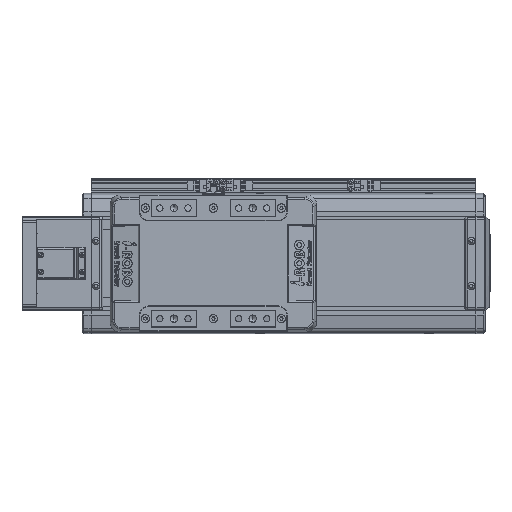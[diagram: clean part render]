
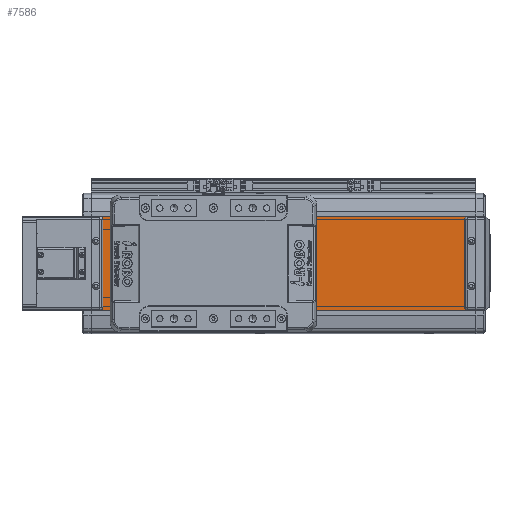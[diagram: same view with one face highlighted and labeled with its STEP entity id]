
A CAD part, top view. The second image highlights one B-rep face of the part: STEP entity #7586.
In plain terms, the highlighted planar face has unit normal (0, 0, 1).
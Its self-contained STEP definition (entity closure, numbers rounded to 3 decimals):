
#7586=ADVANCED_FACE('',(#16433),#16434,.F.);
#16433=FACE_OUTER_BOUND('',#27965,.T.);
#16434=PLANE('',#27966);
#27965=EDGE_LOOP('',(#49287,#49288,#49289,#49290));
#27966=AXIS2_PLACEMENT_3D('',#49291,#49292,#49293);
#49287=ORIENTED_EDGE('',*,*,#71429,.F.);
#49288=ORIENTED_EDGE('',*,*,#71430,.F.);
#49289=ORIENTED_EDGE('',*,*,#69775,.F.);
#49290=ORIENTED_EDGE('',*,*,#70265,.T.);
#49291=CARTESIAN_POINT('',(0.,0.,26.));
#49292=DIRECTION('',(0.,0.,-1.0));
#49293=DIRECTION('',(0.,1.0,0.));
#69775=EDGE_CURVE('',#85631,#85633,#85634,.T.);
#70265=EDGE_CURVE('',#85631,#86344,#86347,.T.);
#71429=EDGE_CURVE('',#87925,#86344,#87926,.T.);
#71430=EDGE_CURVE('',#85633,#87925,#87927,.T.);
#85631=VERTEX_POINT('',#106609);
#85633=VERTEX_POINT('',#106612);
#85634=LINE('',#106613,#106614);
#86344=VERTEX_POINT('',#107578);
#86347=LINE('',#107582,#107583);
#87925=VERTEX_POINT('',#110016);
#87926=LINE('',#110017,#110018);
#87927=LINE('',#110019,#110020);
#106609=CARTESIAN_POINT('',(0.,-50.,26.));
#106612=CARTESIAN_POINT('',(0.,50.,26.));
#106613=CARTESIAN_POINT('',(0.,-50.,26.));
#106614=VECTOR('',#124918,10.0);
#107578=CARTESIAN_POINT('',(410.0,-50.,26.));
#107582=CARTESIAN_POINT('',(0.,-50.,26.));
#107583=VECTOR('',#125621,10.0);
#110016=CARTESIAN_POINT('',(410.0,50.,26.));
#110017=CARTESIAN_POINT('',(410.0,-50.,26.));
#110018=VECTOR('',#127051,10.0);
#110019=CARTESIAN_POINT('',(0.,50.,26.));
#110020=VECTOR('',#127052,10.0);
#124918=DIRECTION('',(0.,1.0,0.));
#125621=DIRECTION('',(1.0,0.,0.));
#127051=DIRECTION('',(0.,-1.0,0.));
#127052=DIRECTION('',(1.0,0.,0.));
